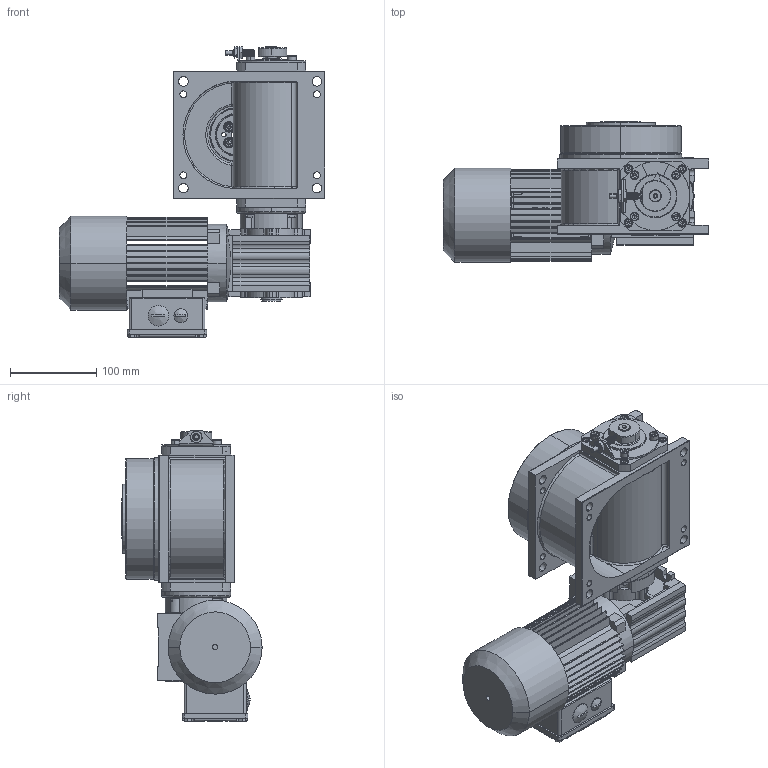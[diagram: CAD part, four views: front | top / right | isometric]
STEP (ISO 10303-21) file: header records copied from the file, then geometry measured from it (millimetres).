
FILE_DESCRIPTION (( 'STEP AP214' ), '1' );
FILE_NAME ('M140_SEW_WAF10DT56L4BMG_D1.STEP', '2021-01-22T15:38:28', ( '' ), ( '' ), 'SwSTEP 2.0', 'SolidWorks 2020', '' );
FILE_SCHEMA (( 'AUTOMOTIVE_DESIGN' ));
Length unit declared in the file: millimetre
Products named in the file (1): M140_SEW_WAF10DT56L4BMG_D1
Bounding box: 308 x 162.7 x 337.29 mm (x, y, z)
Surface area: 400474.3 mm2 (no closed solid volume)
Topology: 0 solids, 51 shells, 1350 faces, 4428 edges, 2957 vertices
Faces by surface type: plane 677, cylinder 476, cone 97, bspline 52, torus 48
Entity records: 68927 total; most frequent: CARTESIAN_POINT 15874, DIRECTION 8013, ORIENTED_EDGE 7487, EDGE_CURVE 4397, VERTEX_POINT 2957, AXIS2_PLACEMENT_3D 2713, LINE 2587, VECTOR 2587
